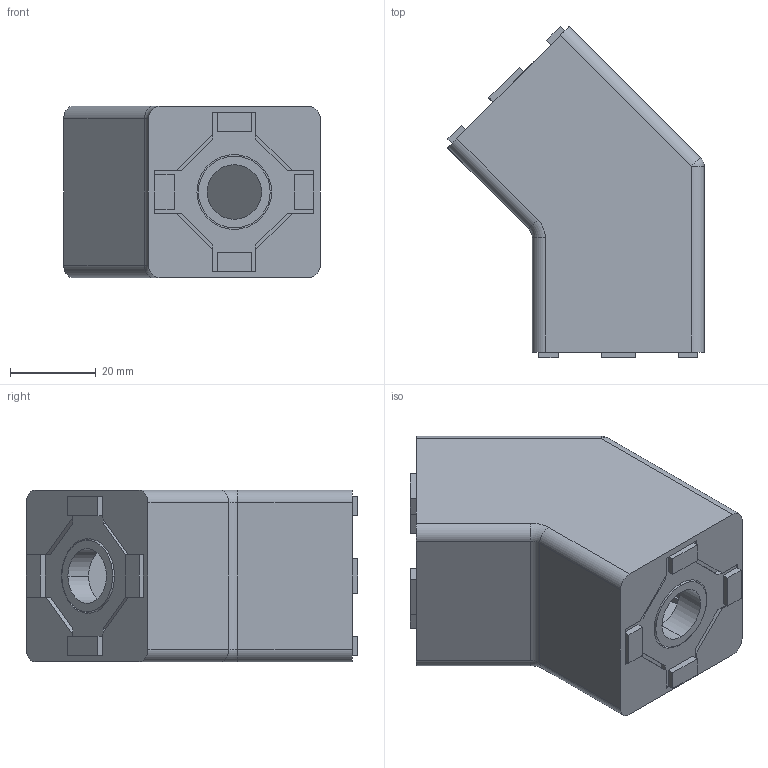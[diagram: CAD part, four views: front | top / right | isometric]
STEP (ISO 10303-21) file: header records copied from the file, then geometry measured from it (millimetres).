
FILE_DESCRIPTION (( 'STEP AP214' ), '1' );
FILE_NAME ('084.305.051.STEP', '2021-02-05T10:48:50', ( '' ), ( '' ), 'SwSTEP 2.0', 'SolidWorks 2018', '' );
FILE_SCHEMA (( 'AUTOMOTIVE_DESIGN' ));
Length unit declared in the file: millimetre
Products named in the file (4): 084.305.051; 084.305.051A; 084.305.051C; 084.305.051B
Assembly tree (4 placements, depth 2):
  084.305.051
    084.305.051A
    084.305.051B  x2
    084.305.051C
Bounding box: 59.69 x 77.06 x 40 mm (x, y, z)
Volume: 51446.8 mm3; surface area: 31286.6 mm2
Topology: 4 solids, 4 shells, 266 faces, 736 edges, 482 vertices
Faces by surface type: plane 236, cylinder 26, torus 2, sphere 2
Entity records: 7543 total; most frequent: CARTESIAN_POINT 1237, ORIENTED_EDGE 1220, DIRECTION 1120, EDGE_CURVE 610, LINE 558, VECTOR 558, VERTEX_POINT 398, AXIS2_PLACEMENT_3D 281
